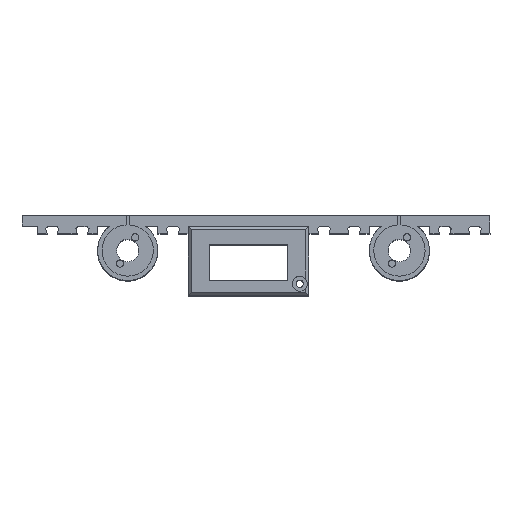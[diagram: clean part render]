
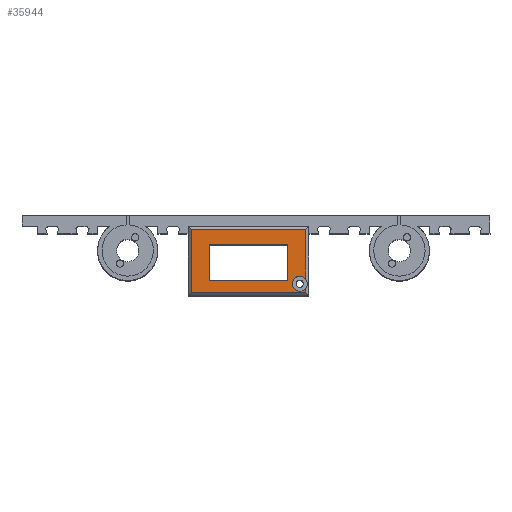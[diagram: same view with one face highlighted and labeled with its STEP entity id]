
A CAD part, top view. The second image highlights one B-rep face of the part: STEP entity #35944.
In plain terms, the highlighted planar face has unit normal (0, 0, 1).
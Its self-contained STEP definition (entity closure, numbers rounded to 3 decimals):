
#148=FACE_BOUND('',#5950,.T.);
#1630=PLANE('',#40406);
#4267=FACE_OUTER_BOUND('',#5949,.T.);
#5949=EDGE_LOOP('',(#31638,#31639,#31640,#31641,#31642,#31643,#31644));
#5950=EDGE_LOOP('',(#31645,#31646,#31647,#31648));
#8897=LINE('',#62967,#11394);
#8933=LINE('',#63059,#11430);
#8934=LINE('',#63061,#11431);
#8935=LINE('',#63063,#11432);
#8936=LINE('',#63065,#11433);
#8937=LINE('',#63066,#11434);
#8938=LINE('',#63069,#11435);
#8939=LINE('',#63070,#11436);
#8940=LINE('',#63071,#11437);
#11394=VECTOR('',#50960,10.);
#11430=VECTOR('',#51040,10.);
#11431=VECTOR('',#51041,10.);
#11432=VECTOR('',#51042,10.);
#11433=VECTOR('',#51043,10.);
#11434=VECTOR('',#51044,10.);
#11435=VECTOR('',#51045,10.);
#11436=VECTOR('',#51046,10.);
#11437=VECTOR('',#51047,10.);
#13768=CIRCLE('',#40401,2.5);
#13770=CIRCLE('',#40403,2.5);
#17148=VERTEX_POINT('',#62964);
#17149=VERTEX_POINT('',#62966);
#17178=VERTEX_POINT('',#63045);
#17179=VERTEX_POINT('',#63046);
#17180=VERTEX_POINT('',#63048);
#17183=VERTEX_POINT('',#63058);
#17184=VERTEX_POINT('',#63060);
#17185=VERTEX_POINT('',#63062);
#17186=VERTEX_POINT('',#63064);
#17187=VERTEX_POINT('',#63067);
#17188=VERTEX_POINT('',#63068);
#22384=EDGE_CURVE('',#17149,#17148,#8897,.T.);
#22426=EDGE_CURVE('',#17180,#17178,#13768,.T.);
#22429=EDGE_CURVE('',#17179,#17180,#13770,.T.);
#22431=EDGE_CURVE('',#17178,#17183,#8933,.T.);
#22432=EDGE_CURVE('',#17183,#17184,#8934,.T.);
#22433=EDGE_CURVE('',#17184,#17185,#8935,.T.);
#22434=EDGE_CURVE('',#17185,#17186,#8936,.T.);
#22435=EDGE_CURVE('',#17186,#17179,#8937,.T.);
#22436=EDGE_CURVE('',#17187,#17188,#8938,.T.);
#22437=EDGE_CURVE('',#17188,#17149,#8939,.T.);
#22438=EDGE_CURVE('',#17148,#17187,#8940,.T.);
#31638=ORIENTED_EDGE('',*,*,#22429,.T.);
#31639=ORIENTED_EDGE('',*,*,#22426,.T.);
#31640=ORIENTED_EDGE('',*,*,#22431,.T.);
#31641=ORIENTED_EDGE('',*,*,#22432,.T.);
#31642=ORIENTED_EDGE('',*,*,#22433,.T.);
#31643=ORIENTED_EDGE('',*,*,#22434,.T.);
#31644=ORIENTED_EDGE('',*,*,#22435,.T.);
#31645=ORIENTED_EDGE('',*,*,#22436,.T.);
#31646=ORIENTED_EDGE('',*,*,#22437,.T.);
#31647=ORIENTED_EDGE('',*,*,#22384,.T.);
#31648=ORIENTED_EDGE('',*,*,#22438,.T.);
#35944=ADVANCED_FACE('',(#4267,#148),#1630,.F.);
#40401=AXIS2_PLACEMENT_3D('',#63049,#51027,#51028);
#40403=AXIS2_PLACEMENT_3D('',#63053,#51032,#51033);
#40406=AXIS2_PLACEMENT_3D('',#63057,#51038,#51039);
#50960=DIRECTION('',(0.,-1.,0.));
#51027=DIRECTION('center_axis',(0.,0.,
-1.));
#51028=DIRECTION('ref_axis',(0.,1.,0.));
#51032=DIRECTION('center_axis',(0.,0.,
-1.));
#51033=DIRECTION('ref_axis',(0.,1.,0.));
#51038=DIRECTION('center_axis',(0.,0.,
-1.));
#51039=DIRECTION('ref_axis',(0.,1.,0.));
#51040=DIRECTION('',(0.,1.,0.));
#51041=DIRECTION('',(-1.,0.,0.));
#51042=DIRECTION('',(0.,-1.,0.));
#51043=DIRECTION('',(1.,0.,0.));
#51044=DIRECTION('',(0.,1.,0.));
#51045=DIRECTION('',(0.,1.,0.));
#51046=DIRECTION('',(1.,0.,0.));
#51047=DIRECTION('',(-1.,0.,0.));
#62964=CARTESIAN_POINT('',(53.,-10.,17.));
#62966=CARTESIAN_POINT('',(53.,2.,17.));
#62967=CARTESIAN_POINT('',(53.,-3.737,17.));
#63045=CARTESIAN_POINT('',(59.,-9.5,17.));
#63046=CARTESIAN_POINT('',(59.,-12.5,17.));
#63048=CARTESIAN_POINT('',(57.,-13.5,17.));
#63049=CARTESIAN_POINT('Origin',(57.,-11.,17.));
#63053=CARTESIAN_POINT('Origin',(57.,-11.,17.));
#63057=CARTESIAN_POINT('Origin',(40.,-3.473,17.));
#63058=CARTESIAN_POINT('',(59.,7.027,17.));
#63059=CARTESIAN_POINT('',(59.,-3.473,17.));
#63060=CARTESIAN_POINT('',(21.,7.027,17.));
#63061=CARTESIAN_POINT('',(40.,7.027,17.));
#63062=CARTESIAN_POINT('',(21.,-13.973,17.));
#63063=CARTESIAN_POINT('',(21.,-3.473,17.));
#63064=CARTESIAN_POINT('',(59.,-13.973,17.));
#63065=CARTESIAN_POINT('',(40.,-13.973,17.));
#63066=CARTESIAN_POINT('',(59.,-3.473,17.));
#63067=CARTESIAN_POINT('',(27.,-10.,17.));
#63068=CARTESIAN_POINT('',(27.,2.,17.));
#63069=CARTESIAN_POINT('',(27.,-3.737,17.));
#63070=CARTESIAN_POINT('',(40.,2.,17.));
#63071=CARTESIAN_POINT('',(40.,-10.,17.));
